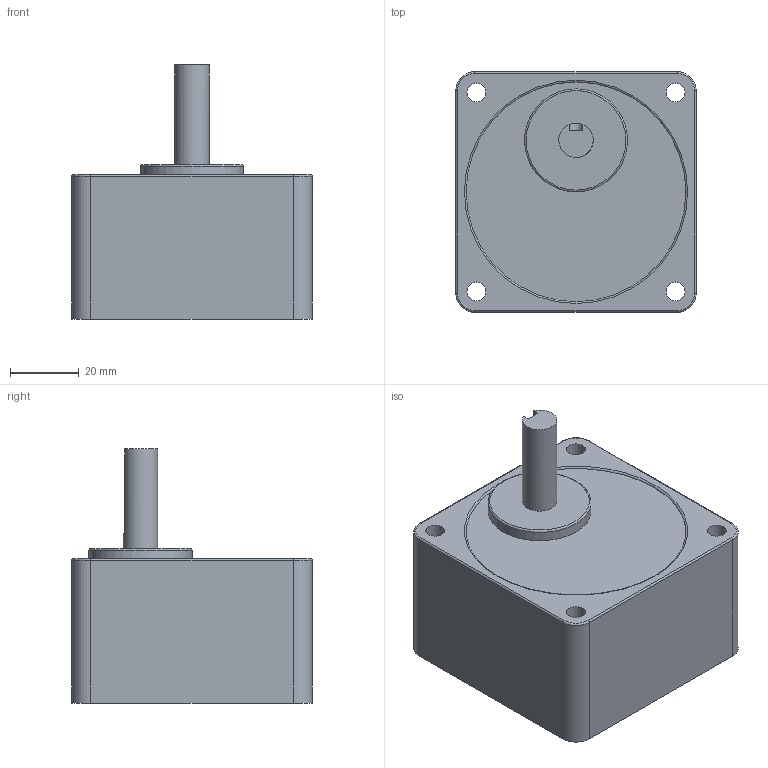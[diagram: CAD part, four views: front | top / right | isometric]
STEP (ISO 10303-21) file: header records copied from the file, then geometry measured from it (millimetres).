
FILE_DESCRIPTION((''),'2;1');
FILE_NAME('E:\2공장-도면\3D\표준형 3D(민규)\step file\감속기\K7G(20~250)B(C).stp','2014-11-13T15:44:12',('AHN'),(''),'Autodesk Inventor 2012','Autodesk Inventor 2012','');
FILE_SCHEMA(('CONFIG_CONTROL_DESIGN'));
Length unit declared in the file: millimetre
Products named in the file (1): K7G(20~250)B(C)
Bounding box: 70 x 70 x 74 mm (x, y, z)
Volume: 203618 mm3; surface area: 25132.5 mm2
Topology: 1 solids, 1 shells, 33 faces, 76 edges, 48 vertices
Faces by surface type: cylinder 15, plane 12, torus 6
Full cylindrical faces by diameter (mm): 5.5 x4, 10 x1, 30 x1
Entity records: 949 total; most frequent: DIRECTION 169, CARTESIAN_POINT 166, ORIENTED_EDGE 134, AXIS2_PLACEMENT_3D 70, EDGE_CURVE 67, EDGE_LOOP 52, VERTEX_POINT 47, CIRCLE 36
